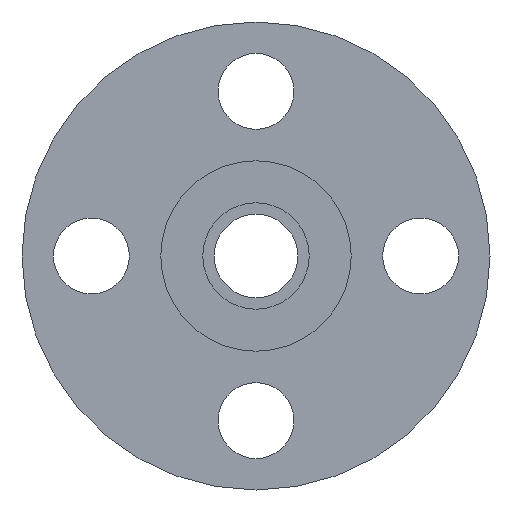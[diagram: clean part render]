
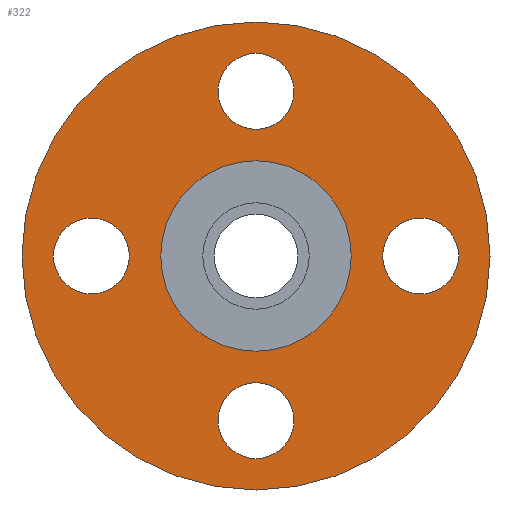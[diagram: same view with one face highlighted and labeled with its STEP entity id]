
A CAD part, left-side view. The second image highlights one B-rep face of the part: STEP entity #322.
In plain terms, the highlighted planar face has unit normal (-1, 0, 0).
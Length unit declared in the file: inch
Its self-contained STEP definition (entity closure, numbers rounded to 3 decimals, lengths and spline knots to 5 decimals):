
#14=FACE_BOUND('',#56,.T.);
#15=FACE_BOUND('',#57,.T.);
#16=FACE_BOUND('',#58,.T.);
#17=FACE_BOUND('',#59,.T.);
#18=FACE_BOUND('',#60,.T.);
#28=PLANE('',#370);
#39=FACE_OUTER_BOUND('',#55,.T.);
#55=EDGE_LOOP('',(#228,#229));
#56=EDGE_LOOP('',(#230));
#57=EDGE_LOOP('',(#231));
#58=EDGE_LOOP('',(#232));
#59=EDGE_LOOP('',(#233));
#60=EDGE_LOOP('',(#234,#235));
#101=CIRCLE('',#355,0.375);
#103=CIRCLE('',#358,0.375);
#105=CIRCLE('',#361,0.375);
#107=CIRCLE('',#364,0.375);
#108=CIRCLE('',#366,2.31);
#109=CIRCLE('',#367,2.31);
#112=CIRCLE('',#371,0.94);
#113=CIRCLE('',#372,0.94);
#133=VERTEX_POINT('',#513);
#135=VERTEX_POINT('',#519);
#137=VERTEX_POINT('',#525);
#139=VERTEX_POINT('',#531);
#140=VERTEX_POINT('',#535);
#141=VERTEX_POINT('',#536);
#144=VERTEX_POINT('',#545);
#145=VERTEX_POINT('',#546);
#166=EDGE_CURVE('',#133,#133,#101,.T.);
#169=EDGE_CURVE('',#135,#135,#103,.T.);
#172=EDGE_CURVE('',#137,#137,#105,.T.);
#175=EDGE_CURVE('',#139,#139,#107,.T.);
#176=EDGE_CURVE('',#140,#141,#108,.T.);
#177=EDGE_CURVE('',#141,#140,#109,.T.);
#181=EDGE_CURVE('',#144,#145,#112,.T.);
#182=EDGE_CURVE('',#145,#144,#113,.T.);
#228=ORIENTED_EDGE('',*,*,#176,.T.);
#229=ORIENTED_EDGE('',*,*,#177,.T.);
#230=ORIENTED_EDGE('',*,*,#166,.T.);
#231=ORIENTED_EDGE('',*,*,#169,.T.);
#232=ORIENTED_EDGE('',*,*,#172,.T.);
#233=ORIENTED_EDGE('',*,*,#175,.T.);
#234=ORIENTED_EDGE('',*,*,#181,.F.);
#235=ORIENTED_EDGE('',*,*,#182,.F.);
#322=ADVANCED_FACE('',(#39,#14,#15,#16,#17,#18),#28,.T.);
#355=AXIS2_PLACEMENT_3D('',#515,#408,#409);
#358=AXIS2_PLACEMENT_3D('',#521,#415,#416);
#361=AXIS2_PLACEMENT_3D('',#527,#422,#423);
#364=AXIS2_PLACEMENT_3D('',#533,#429,#430);
#366=AXIS2_PLACEMENT_3D('',#537,#433,#434);
#367=AXIS2_PLACEMENT_3D('',#538,#435,#436);
#370=AXIS2_PLACEMENT_3D('',#544,#442,#443);
#371=AXIS2_PLACEMENT_3D('',#547,#444,#445);
#372=AXIS2_PLACEMENT_3D('',#548,#446,#447);
#408=DIRECTION('center_axis',(1.,0.,0.));
#409=DIRECTION('ref_axis',(0.,-1.,0.));
#415=DIRECTION('center_axis',(1.,0.,0.));
#416=DIRECTION('ref_axis',(0.,0.,-1.));
#422=DIRECTION('center_axis',(1.,0.,0.));
#423=DIRECTION('ref_axis',(0.,1.,0.));
#429=DIRECTION('center_axis',(1.,0.,0.));
#430=DIRECTION('ref_axis',(0.,0.,1.));
#433=DIRECTION('center_axis',(-1.,0.,0.));
#434=DIRECTION('ref_axis',(0.,0.,1.));
#435=DIRECTION('center_axis',(-1.,0.,0.));
#436=DIRECTION('ref_axis',(0.,0.,1.));
#442=DIRECTION('center_axis',(-1.,0.,0.));
#443=DIRECTION('ref_axis',(0.,0.,1.));
#444=DIRECTION('center_axis',(-1.,0.,0.));
#445=DIRECTION('ref_axis',(0.,0.,1.));
#446=DIRECTION('center_axis',(-1.,0.,0.));
#447=DIRECTION('ref_axis',(0.,0.,1.));
#513=CARTESIAN_POINT('',(-0.62,2.,0.));
#515=CARTESIAN_POINT('Origin',(-0.62,1.625,0.));
#519=CARTESIAN_POINT('',(-0.62,0.,2.));
#521=CARTESIAN_POINT('Origin',(-0.62,0.,1.625));
#525=CARTESIAN_POINT('',(-0.62,-2.,0.));
#527=CARTESIAN_POINT('Origin',(-0.62,-1.625,0.));
#531=CARTESIAN_POINT('',(-0.62,0.,-2.));
#533=CARTESIAN_POINT('Origin',(-0.62,0.,-1.625));
#535=CARTESIAN_POINT('',(-0.62,0.,2.31));
#536=CARTESIAN_POINT('',(-0.62,0.,-2.31));
#537=CARTESIAN_POINT('Origin',(-0.62,0.,0.));
#538=CARTESIAN_POINT('Origin',(-0.62,0.,0.));
#544=CARTESIAN_POINT('Origin',(-0.62,0.,1.625));
#545=CARTESIAN_POINT('',(-0.62,0.,0.94));
#546=CARTESIAN_POINT('',(-0.62,0.,-0.94));
#547=CARTESIAN_POINT('Origin',(-0.62,0.,0.));
#548=CARTESIAN_POINT('Origin',(-0.62,0.,0.));
